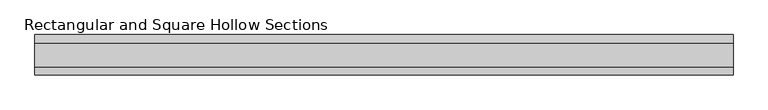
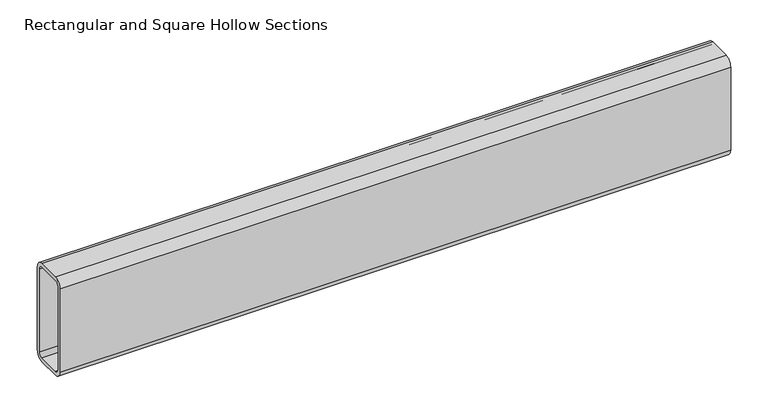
"""IFC4 building model written with IfcOpenShell, lengths in millimetres: beam geometry, Rectangular and Square Hollow Sections : TREC160x60x6."""

from ifc_helpers import new_model, si_unit, point, frame, frame_2d, origin, place, context, project, spatial, polyline, circle_curve, trimmed, segment, composite_curve, outline, extrude, source, transform, mapped, element, save


def rectangular_and_square_hollow_sections_12b3b10f(model_context):
    return source(origin(), model_context, "Body", "SweptSolid", [
        extrude(outline(composite_curve([segment(polyline([(30.0, 68.0), (30.0, -68.0)]), True, "CONTINUOUS"), segment(trimmed(circle_curve(frame_2d((18.0, -68.0)), 12.0), [point((30.0, -68.0))], [point((18.0, -80.0))], False, "CARTESIAN"), True, "CONTINUOUS"), segment(polyline([(18.0, -80.0), (-18.0, -80.0)]), True, "CONTINUOUS"), segment(trimmed(circle_curve(frame_2d((-18.0, -68.0)), 12.0), [point((-18.0, -80.0))], [point((-30.0, -68.0))], False, "CARTESIAN"), True, "CONTINUOUS"), segment(polyline([(-30.0, -68.0), (-30.0, 68.0)]), True, "CONTINUOUS"), segment(trimmed(circle_curve(frame_2d((-18.0, 68.0)), 12.0), [point((-30.0, 68.0))], [point((-18.0, 80.0))], False, "CARTESIAN"), True, "CONTINUOUS"), segment(polyline([(-18.0, 80.0), (18.0, 80.0)]), True, "CONTINUOUS"), segment(trimmed(circle_curve(frame_2d((18.0, 68.0)), 12.0), [point((18.0, 80.0))], [point((30.0, 68.0))], False, "CARTESIAN"), True, "CONTINUOUS")], self_intersect=False), holes=[composite_curve([segment(trimmed(circle_curve(frame_2d((-18.0, 68.0)), 6.0), [point((-18.0, 74.0))], [point((-24.0, 68.0))], True, "CARTESIAN"), True, "CONTINUOUS"), segment(polyline([(-24.0, 68.0), (-24.0, -68.0)]), True, "CONTINUOUS"), segment(trimmed(circle_curve(frame_2d((-18.0, -68.0)), 6.0), [point((-24.0, -68.0))], [point((-18.0, -74.0))], True, "CARTESIAN"), True, "CONTINUOUS"), segment(polyline([(-18.0, -74.0), (18.0, -74.0)]), True, "CONTINUOUS"), segment(trimmed(circle_curve(frame_2d((18.0, -68.0)), 6.0), [point((18.0, -74.0))], [point((24.0, -68.0))], True, "CARTESIAN"), True, "CONTINUOUS"), segment(polyline([(24.0, -68.0), (24.0, 68.0)]), True, "CONTINUOUS"), segment(trimmed(circle_curve(frame_2d((18.0, 68.0)), 6.0), [point((24.0, 68.0))], [point((18.0, 74.0))], True, "CARTESIAN"), True, "CONTINUOUS"), segment(polyline([(18.0, 74.0), (-18.0, 74.0)]), True, "CONTINUOUS")], self_intersect=False)]), frame((-517.5, 0.0, 0.0), z_axis=(1.0, 0.0, 0.0), x_axis=(0.0, 1.0, 0.0)), (0.0, 0.0, 1.0), 1035.0),
    ])


if __name__ == "__main__":
    model = new_model("IFC4")
    model_context = context("Model", 3, world=origin())
    ifc_project = project(units=[si_unit("LENGTHUNIT", "METRE", prefix="MILLI")], contexts=[model_context])
    site = spatial("IfcSite", under=ifc_project)
    building = spatial("IfcBuilding", under=site)
    placement = place(None, origin())
    rectangular_and_square_hollow_sections_shape = rectangular_and_square_hollow_sections_12b3b10f(model_context)
    element("IfcBeam", 1, ObjectType="Rectangular and Square Hollow Sections : TREC160x60x6", at=placement, inside=building, context=model_context, shape_type="MappedRepresentation", body=[
        mapped(rectangular_and_square_hollow_sections_shape, transform((0.0, 0.0, 0.0), x_axis=(1.0, 0.0, 0.0), y_axis=(0.0, 1.0, 0.0), z_axis=(0.0, 0.0, 1.0))),
    ])
    save(model, "model.ifc")
